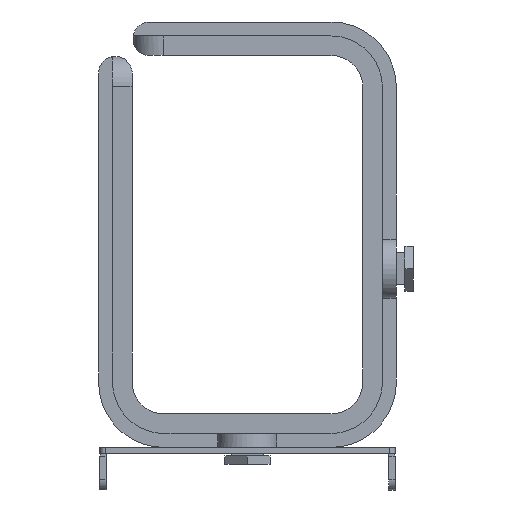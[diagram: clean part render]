
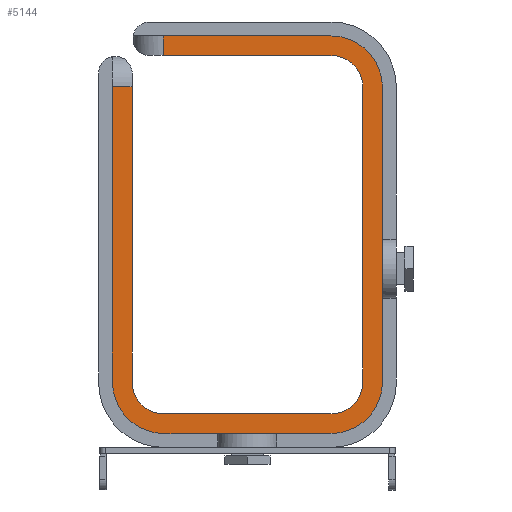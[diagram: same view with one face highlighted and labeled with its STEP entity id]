
A CAD part, left-side view. The second image highlights one B-rep face of the part: STEP entity #5144.
In plain terms, the highlighted planar face has unit normal (-1, 0, 0) as drawn and (0, 0, 1) by its records, which use the part's own axes.
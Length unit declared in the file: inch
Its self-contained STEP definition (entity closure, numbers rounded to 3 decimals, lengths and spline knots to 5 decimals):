
#296=PLANE('',#5594);
#539=FACE_OUTER_BOUND('',#867,.T.);
#867=EDGE_LOOP('',(#4667,#4668,#4669,#4670,#4671,#4672,#4673,#4674,#4675,
#4676,#4677,#4678,#4679,#4680,#4681,#4682,#4683,#4684));
#1374=LINE('',#8275,#1932);
#1401=LINE('',#8356,#1959);
#1402=LINE('',#8359,#1960);
#1412=LINE('',#8439,#1970);
#1417=LINE('',#8456,#1975);
#1419=LINE('',#8460,#1977);
#1420=LINE('',#8464,#1978);
#1421=LINE('',#8468,#1979);
#1422=LINE('',#8472,#1980);
#1423=LINE('',#8474,#1981);
#1424=LINE('',#8476,#1982);
#1425=LINE('',#8480,#1983);
#1932=VECTOR('',#6795,0.3937);
#1959=VECTOR('',#6870,0.3937);
#1960=VECTOR('',#6873,0.3937);
#1970=VECTOR('',#6905,0.3937);
#1975=VECTOR('',#6920,0.3937);
#1977=VECTOR('',#6924,0.3937);
#1978=VECTOR('',#6927,0.3937);
#1979=VECTOR('',#6930,0.3937);
#1980=VECTOR('',#6933,0.3937);
#1981=VECTOR('',#6934,0.3937);
#1982=VECTOR('',#6935,0.3937);
#1983=VECTOR('',#6940,0.3937);
#2159=CIRCLE('',#5595,0.375);
#2160=CIRCLE('',#5596,0.375);
#2161=CIRCLE('',#5597,0.375);
#2162=CIRCLE('',#5598,0.605);
#2163=CIRCLE('',#5599,0.605);
#2164=CIRCLE('',#5600,0.605);
#2558=VERTEX_POINT('',#8252);
#2567=VERTEX_POINT('',#8273);
#2591=VERTEX_POINT('',#8337);
#2597=VERTEX_POINT('',#8354);
#2598=VERTEX_POINT('',#8358);
#2606=VERTEX_POINT('',#8382);
#2613=VERTEX_POINT('',#8437);
#2620=VERTEX_POINT('',#8455);
#2621=VERTEX_POINT('',#8459);
#2622=VERTEX_POINT('',#8461);
#2623=VERTEX_POINT('',#8463);
#2624=VERTEX_POINT('',#8465);
#2625=VERTEX_POINT('',#8467);
#2626=VERTEX_POINT('',#8469);
#2627=VERTEX_POINT('',#8471);
#2628=VERTEX_POINT('',#8473);
#2629=VERTEX_POINT('',#8475);
#2630=VERTEX_POINT('',#8478);
#3248=EDGE_CURVE('',#2558,#2567,#1374,.T.);
#3289=EDGE_CURVE('',#2591,#2597,#1401,.T.);
#3290=EDGE_CURVE('',#2598,#2591,#1402,.T.);
#3311=EDGE_CURVE('',#2606,#2613,#1412,.T.);
#3319=EDGE_CURVE('',#2620,#2606,#1417,.T.);
#3321=EDGE_CURVE('',#2613,#2621,#1419,.T.);
#3322=EDGE_CURVE('',#2622,#2621,#2159,.T.);
#3323=EDGE_CURVE('',#2622,#2623,#1420,.T.);
#3324=EDGE_CURVE('',#2624,#2623,#2160,.T.);
#3325=EDGE_CURVE('',#2624,#2625,#1421,.T.);
#3326=EDGE_CURVE('',#2626,#2625,#2161,.T.);
#3327=EDGE_CURVE('',#2626,#2627,#1422,.T.);
#3328=EDGE_CURVE('',#2628,#2627,#1423,.T.);
#3329=EDGE_CURVE('',#2628,#2629,#1424,.T.);
#3330=EDGE_CURVE('',#2629,#2598,#2162,.T.);
#3331=EDGE_CURVE('',#2597,#2630,#2163,.T.);
#3332=EDGE_CURVE('',#2630,#2558,#1425,.T.);
#3333=EDGE_CURVE('',#2567,#2620,#2164,.T.);
#4667=ORIENTED_EDGE('',*,*,#3311,.T.);
#4668=ORIENTED_EDGE('',*,*,#3321,.T.);
#4669=ORIENTED_EDGE('',*,*,#3322,.F.);
#4670=ORIENTED_EDGE('',*,*,#3323,.T.);
#4671=ORIENTED_EDGE('',*,*,#3324,.F.);
#4672=ORIENTED_EDGE('',*,*,#3325,.T.);
#4673=ORIENTED_EDGE('',*,*,#3326,.F.);
#4674=ORIENTED_EDGE('',*,*,#3327,.T.);
#4675=ORIENTED_EDGE('',*,*,#3328,.F.);
#4676=ORIENTED_EDGE('',*,*,#3329,.T.);
#4677=ORIENTED_EDGE('',*,*,#3330,.T.);
#4678=ORIENTED_EDGE('',*,*,#3290,.T.);
#4679=ORIENTED_EDGE('',*,*,#3289,.T.);
#4680=ORIENTED_EDGE('',*,*,#3331,.T.);
#4681=ORIENTED_EDGE('',*,*,#3332,.T.);
#4682=ORIENTED_EDGE('',*,*,#3248,.T.);
#4683=ORIENTED_EDGE('',*,*,#3333,.T.);
#4684=ORIENTED_EDGE('',*,*,#3319,.T.);
#5144=ADVANCED_FACE('',(#539),#296,.T.);
#5594=AXIS2_PLACEMENT_3D('',#8458,#6922,#6923);
#5595=AXIS2_PLACEMENT_3D('',#8462,#6925,#6926);
#5596=AXIS2_PLACEMENT_3D('',#8466,#6928,#6929);
#5597=AXIS2_PLACEMENT_3D('',#8470,#6931,#6932);
#5598=AXIS2_PLACEMENT_3D('',#8477,#6936,#6937);
#5599=AXIS2_PLACEMENT_3D('',#8479,#6938,#6939);
#5600=AXIS2_PLACEMENT_3D('',#8481,#6941,#6942);
#6795=DIRECTION('',(1.,0.,0.));
#6870=DIRECTION('',(0.,-1.,0.));
#6873=DIRECTION('',(0.,-1.,0.));
#6905=DIRECTION('',(-1.,0.,0.));
#6920=DIRECTION('',(0.,1.,0.));
#6922=DIRECTION('center_axis',(0.,0.,1.));
#6923=DIRECTION('ref_axis',(1.,0.,0.));
#6924=DIRECTION('',(0.,-1.,0.));
#6925=DIRECTION('center_axis',(0.,0.,1.));
#6926=DIRECTION('ref_axis',(0.707,-0.707,0.));
#6927=DIRECTION('',(-1.,0.,0.));
#6928=DIRECTION('center_axis',(0.,0.,1.));
#6929=DIRECTION('ref_axis',(-0.707,-0.707,0.));
#6930=DIRECTION('',(0.,1.,0.));
#6931=DIRECTION('center_axis',(0.,0.,1.));
#6932=DIRECTION('ref_axis',(-0.707,0.707,0.));
#6933=DIRECTION('',(1.,0.,0.));
#6934=DIRECTION('',(0.,-1.,0.));
#6935=DIRECTION('',(-1.,0.,0.));
#6936=DIRECTION('center_axis',(0.,0.,1.));
#6937=DIRECTION('ref_axis',(0.,-1.,0.));
#6938=DIRECTION('center_axis',(0.,0.,1.));
#6939=DIRECTION('ref_axis',(1.,0.,0.));
#6940=DIRECTION('',(1.,0.,0.));
#6941=DIRECTION('center_axis',(0.,0.,1.));
#6942=DIRECTION('ref_axis',(0.,1.,0.));
#8252=CARTESIAN_POINT('',(-2.4965,-2.943,0.709));
#8273=CARTESIAN_POINT('',(-0.365,-2.943,0.709));
#8275=CARTESIAN_POINT('',(-2.96626,-2.943,0.709));
#8337=CARTESIAN_POINT('',(-4.433,-1.3565,0.709));
#8354=CARTESIAN_POINT('',(-4.433,-2.338,0.709));
#8356=CARTESIAN_POINT('',(-4.433,-0.86927,0.709));
#8358=CARTESIAN_POINT('',(-4.433,-0.375,0.709));
#8359=CARTESIAN_POINT('',(-4.433,-0.86927,0.709));
#8382=CARTESIAN_POINT('',(0.24,-0.36733,0.709));
#8437=CARTESIAN_POINT('',(0.01,-0.36733,0.709));
#8439=CARTESIAN_POINT('',(0.24,-0.36733,0.709));
#8455=CARTESIAN_POINT('',(0.24,-2.338,0.709));
#8456=CARTESIAN_POINT('',(0.24,-1.85077,0.709));
#8458=CARTESIAN_POINT('Origin',(-2.10451,-1.36354,0.709));
#8459=CARTESIAN_POINT('',(0.01,-2.338,0.709));
#8460=CARTESIAN_POINT('',(0.01,-2.713,0.709));
#8461=CARTESIAN_POINT('',(-0.365,-2.713,0.709));
#8462=CARTESIAN_POINT('Origin',(-0.365,-2.338,0.709));
#8463=CARTESIAN_POINT('',(-3.828,-2.713,0.709));
#8464=CARTESIAN_POINT('',(-4.203,-2.713,0.709));
#8465=CARTESIAN_POINT('',(-4.203,-2.338,0.709));
#8466=CARTESIAN_POINT('Origin',(-3.828,-2.338,0.709));
#8467=CARTESIAN_POINT('',(-4.203,-0.375,0.709));
#8468=CARTESIAN_POINT('',(-4.203,0.,0.709));
#8469=CARTESIAN_POINT('',(-3.828,0.,0.709));
#8470=CARTESIAN_POINT('Origin',(-3.828,-0.375,0.709));
#8471=CARTESIAN_POINT('',(-0.35733,0.,0.709));
#8472=CARTESIAN_POINT('',(0.,0.,0.709));
#8473=CARTESIAN_POINT('',(-0.35733,0.23,0.709));
#8474=CARTESIAN_POINT('',(-0.35733,0.23,0.709));
#8475=CARTESIAN_POINT('',(-3.828,0.23,0.709));
#8476=CARTESIAN_POINT('',(-1.05367,0.23,0.709));
#8477=CARTESIAN_POINT('Origin',(-3.828,-0.375,0.709));
#8478=CARTESIAN_POINT('',(-3.828,-2.943,0.709));
#8479=CARTESIAN_POINT('Origin',(-3.828,-2.338,0.709));
#8480=CARTESIAN_POINT('',(-2.96626,-2.943,0.709));
#8481=CARTESIAN_POINT('Origin',(-0.365,-2.338,0.709));
